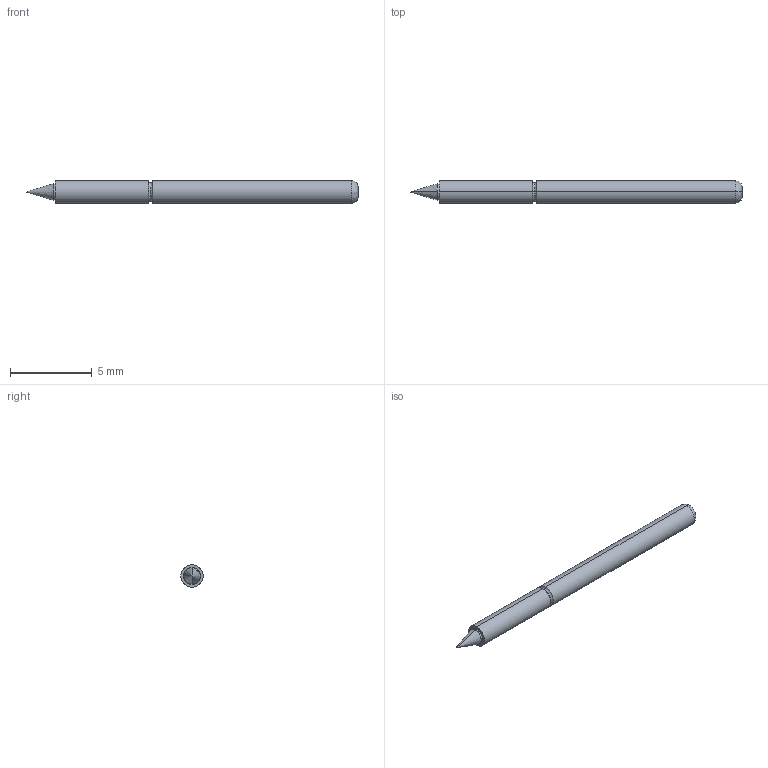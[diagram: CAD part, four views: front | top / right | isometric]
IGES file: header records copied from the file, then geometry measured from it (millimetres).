
Start section: SolidWorks IGES file using analytic representation for surfaces
Global section: file name: O:\PYLON\IGES FILES\P3158\P3158G-3C1S FULL.IGS; native system: SolidWorks 2015; preprocessor: SolidWorks 2015; author: kgolden; date: 171020.060950; units: inch
Bounding box: 20.32 x 1.37 x 1.37 mm (x, y, z)
Surface area: 89.9 mm2 (no closed solid volume)
Topology: 0 solids, 0 shells, 18 faces, 112 edges, 110 vertices
Faces by surface type: revolution 10, bspline 8
